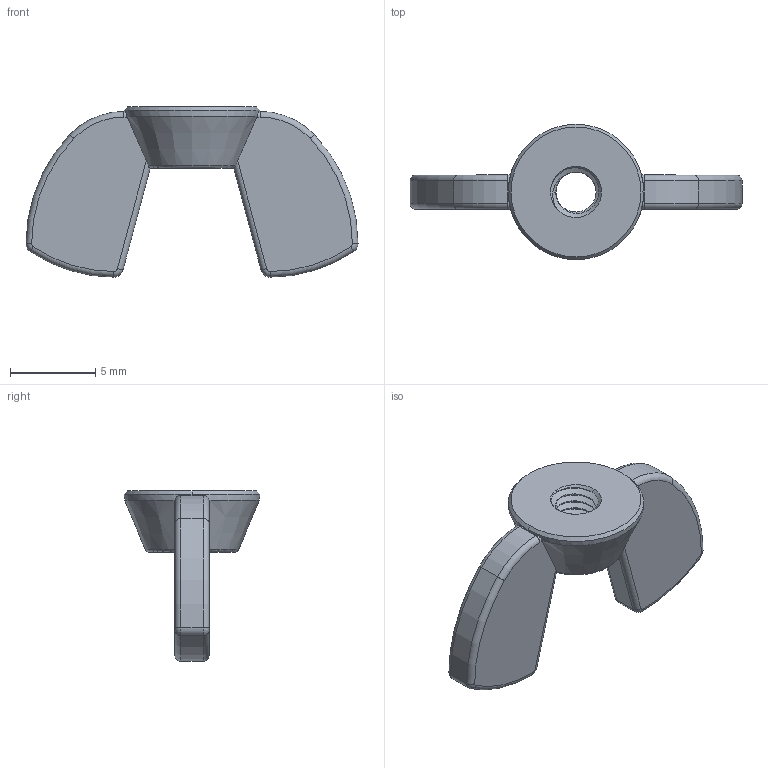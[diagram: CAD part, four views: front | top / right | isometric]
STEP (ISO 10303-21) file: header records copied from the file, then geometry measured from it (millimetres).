
FILE_DESCRIPTION (( 'STEP AP203' ), '1' );
FILE_NAME ('WING NUT M3 x 05mm Thread.STEP', '2017-05-02T00:56:46', ( '' ), ( '' ), 'SwSTEP 2.0', 'SolidWorks 2014', '' );
FILE_SCHEMA (( 'CONFIG_CONTROL_DESIGN' ));
Length unit declared in the file: millimetre
Products named in the file (1): WING NUT M3 x 05mm Thread
Bounding box: 19.5 x 7.96 x 10 mm (x, y, z)
Volume: 309.8 mm3; surface area: 456.2 mm2
Topology: 1 solids, 1 shells, 97 faces, 252 edges, 157 vertices
Faces by surface type: cylinder 47, torus 22, plane 14, cone 12, bspline 2
Entity records: 3890 total; most frequent: CARTESIAN_POINT 1628, ORIENTED_EDGE 504, DIRECTION 435, EDGE_CURVE 252, AXIS2_PLACEMENT_3D 183, VERTEX_POINT 157, EDGE_LOOP 99, FACE_OUTER_BOUND 97
